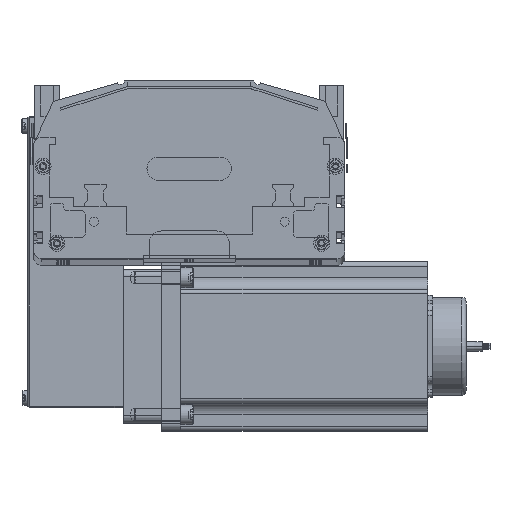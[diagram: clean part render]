
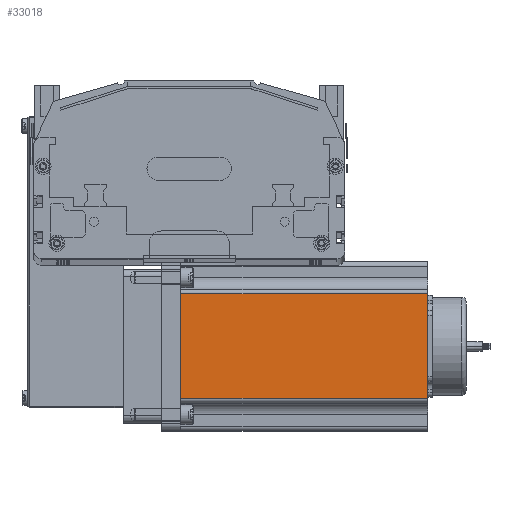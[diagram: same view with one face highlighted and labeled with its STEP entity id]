
A CAD part, top view. The second image highlights one B-rep face of the part: STEP entity #33018.
In plain terms, the highlighted planar face has unit normal (0, 0, 1) as drawn and (0, -1, 0) by its records, which use the part's own axes.
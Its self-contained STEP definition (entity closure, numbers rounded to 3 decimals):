
#17776 = DIRECTION ( 'NONE',  ( 1., 0., 0. ) ) ;
#17777 = VECTOR ( 'NONE', #17776, 1000. ) ;
#17778 = CARTESIAN_POINT ( 'NONE',  ( 0., 0., 0. ) ) ;
#17779 = LINE ( 'NONE', #17778, #17777 ) ;
#17803 = AXIS2_PLACEMENT_3D ( 'NONE', #17850, #17843, #17870 ) ;
#17843 = DIRECTION ( 'NONE',  ( 0., 1., 0. ) ) ;
#17850 = CARTESIAN_POINT ( 'NONE',  ( 0., 0., 160.5 ) ) ;
#17856 = DIRECTION ( 'NONE',  ( 1., 0., 0. ) ) ;
#17857 = VECTOR ( 'NONE', #17856, 1000. ) ;
#17864 = DIRECTION ( 'NONE',  ( 0., 0., 1. ) ) ;
#17865 = VECTOR ( 'NONE', #17864, 1000. ) ;
#17866 = CARTESIAN_POINT ( 'NONE',  ( 88.952, 0., 160.5 ) ) ;
#17867 = LINE ( 'NONE', #17866, #17865 ) ;
#17868 = CARTESIAN_POINT ( 'NONE',  ( 88.952, 0., 160.5 ) ) ;
#17870 = DIRECTION ( 'NONE',  ( 0., 0., 1. ) ) ;
#17872 = PLANE ( 'NONE',  #17803 ) ;
#17874 = FACE_OUTER_BOUND ( 'NONE', #32965, .T. ) ;
#17876 = CARTESIAN_POINT ( 'NONE',  ( 0., 0., 160.5 ) ) ;
#17877 = LINE ( 'NONE', #17876, #17857 ) ;
#17878 = CARTESIAN_POINT ( 'NONE',  ( 88.952, 0., 0. ) ) ;
#17879 = CARTESIAN_POINT ( 'NONE',  ( 21.048, 0., 0. ) ) ;
#17893 = CARTESIAN_POINT ( 'NONE',  ( 21.048, 0., 160.5 ) ) ;
#17896 = LINE ( 'NONE', #17950, #17949 ) ;
#17948 = DIRECTION ( 'NONE',  ( 0., 0., -1. ) ) ;
#17949 = VECTOR ( 'NONE', #17948, 1000. ) ;
#17950 = CARTESIAN_POINT ( 'NONE',  ( 21.048, 0., 160.5 ) ) ;
#32962 = EDGE_CURVE ( 'NONE', #33016, #33017, #17779, .T. ) ;
#32964 = ORIENTED_EDGE ( 'NONE', *, *, #33024, .F. ) ;
#32965 = EDGE_LOOP ( 'NONE', ( #33046, #33023, #32964, #33089 ) ) ;
#33016 = VERTEX_POINT ( 'NONE', #17879 ) ;
#33017 = VERTEX_POINT ( 'NONE', #17878 ) ;
#33018 = ADVANCED_FACE ( 'NONE', ( #17874 ), #17872, .F. ) ;
#33019 = VERTEX_POINT ( 'NONE', #17893 ) ;
#33020 = EDGE_CURVE ( 'NONE', #33017, #33022, #17867, .T. ) ;
#33022 = VERTEX_POINT ( 'NONE', #17868 ) ;
#33023 = ORIENTED_EDGE ( 'NONE', *, *, #33020, .T. ) ;
#33024 = EDGE_CURVE ( 'NONE', #33019, #33022, #17877, .T. ) ;
#33037 = EDGE_CURVE ( 'NONE', #33019, #33016, #17896, .T. ) ;
#33046 = ORIENTED_EDGE ( 'NONE', *, *, #32962, .T. ) ;
#33089 = ORIENTED_EDGE ( 'NONE', *, *, #33037, .T. ) ;
